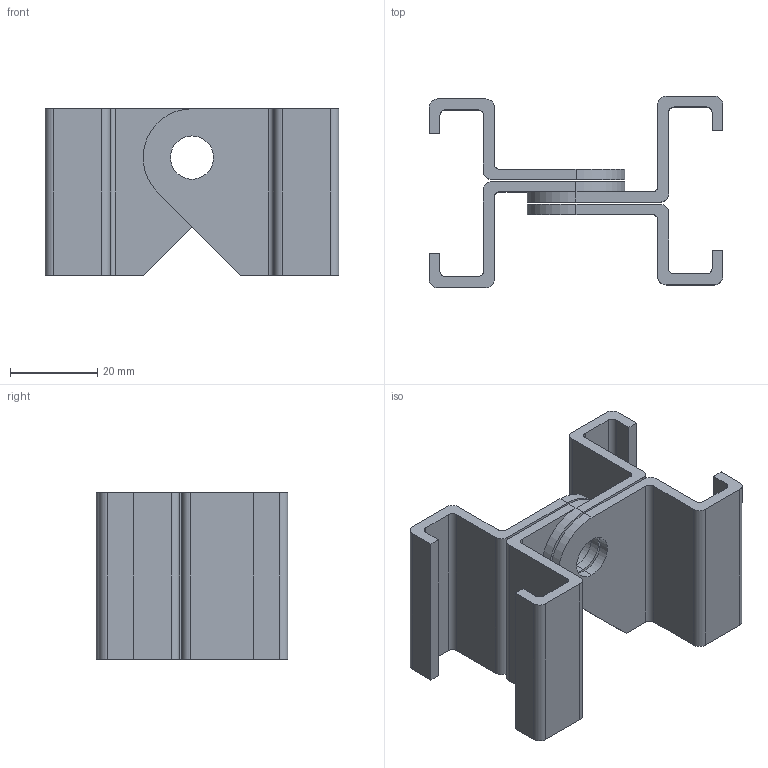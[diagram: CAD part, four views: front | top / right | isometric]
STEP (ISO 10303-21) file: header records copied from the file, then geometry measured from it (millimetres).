
FILE_DESCRIPTION (( 'STEP AP203' ), '1' );
FILE_NAME ('lajskw.STEP', '2015-05-11T20:45:33', ( '' ), ( '' ), 'SwSTEP 2.0', 'SolidWorks 2010', '' );
FILE_SCHEMA (( 'CONFIG_CONTROL_DESIGN' ));
Length unit declared in the file: inch
Products named in the file (3): lajskw; 89120528; 89120529
Assembly tree (4 placements, depth 2):
  lajskw
    89120528  x2
    89120529  x2
Bounding box: 67.21 x 43.79 x 38.1 mm (x, y, z)
Volume: 21910.7 mm3; surface area: 19782.7 mm2
Topology: 4 solids, 4 shells, 84 faces, 228 edges, 152 vertices
Faces by surface type: plane 48, cylinder 36
Entity records: 1717 total; most frequent: DIRECTION 248, CARTESIAN_POINT 239, ORIENTED_EDGE 228, EDGE_CURVE 114, AXIS2_PLACEMENT_3D 85, VECTOR 78, LINE 78, VERTEX_POINT 76
